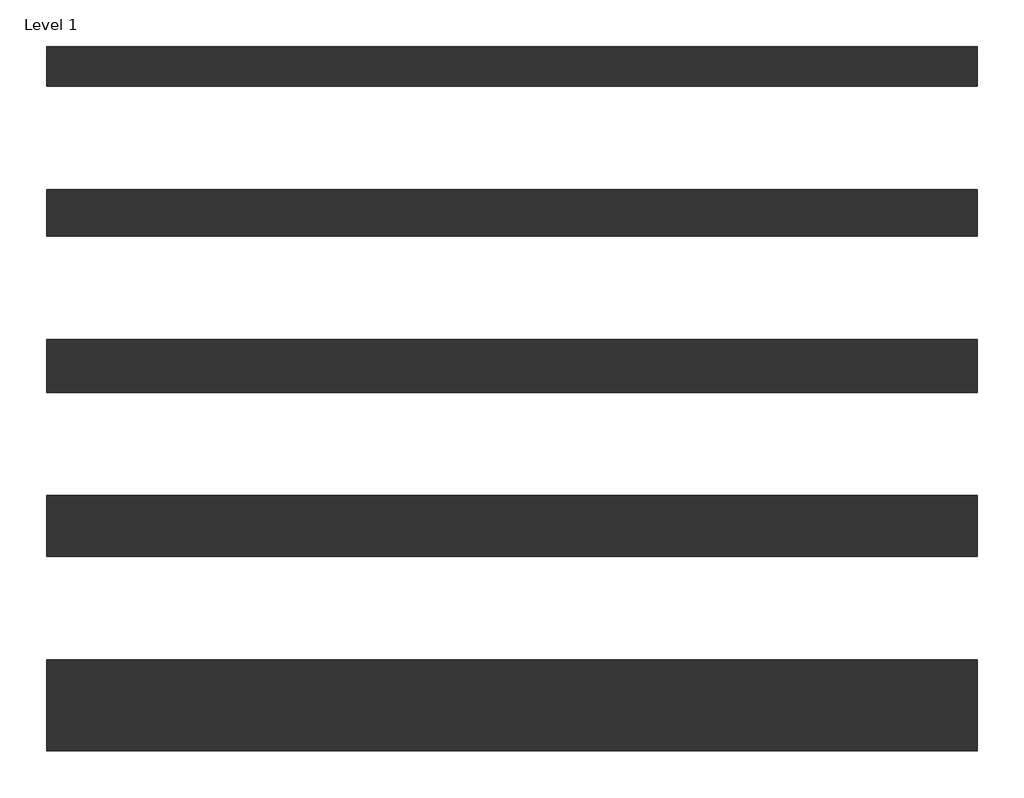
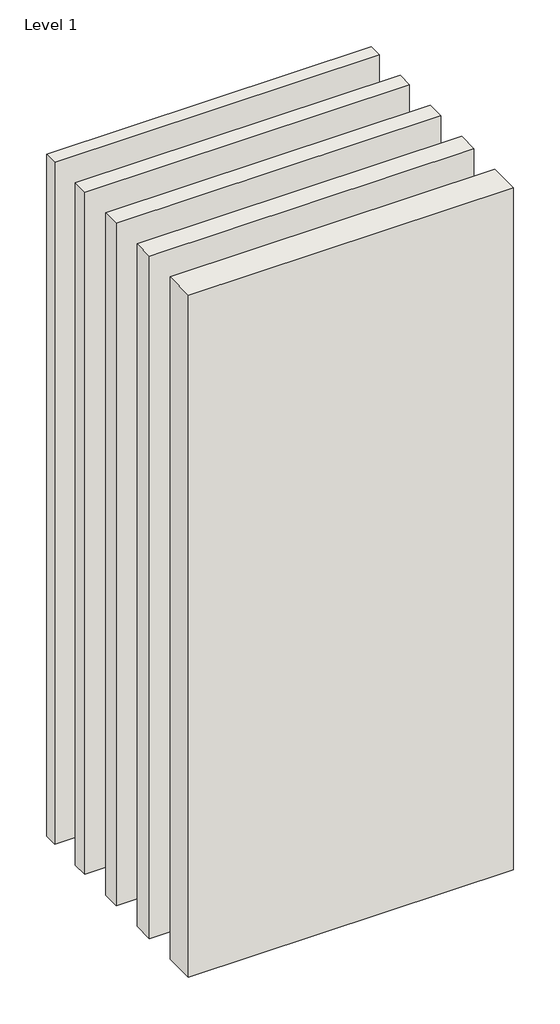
# One storey: 5 walls.
"""IFC4 building model written with IfcOpenShell, lengths in millimetres."""

from ifc_helpers import new_model, si_unit, origin, origin_with_axes, place, context, project, spatial, polyline, outline, extrude, element, save

model = new_model("IFC4")

# Units and contexts
model_context = context("Model", 3, world=origin())
ifc_project = project(units=[si_unit("LENGTHUNIT", "METRE", prefix="MILLI")], contexts=[model_context])

# Site, building, storey
site = spatial("IfcSite", under=ifc_project)
building = spatial("IfcBuilding", under=site)
storey = spatial("IfcBuildingStorey", under=building, Name="Level 1", Elevation=0.0)

# Walls
placement = place(None, origin())
element("IfcWall", 1, ObjectType="Interior-Steel Frame-Single Stud EC08-CSR 3017-102mm", at=placement, inside=storey, context=model_context, shape_type="SweptSolid", body=[
    extrude(outline(polyline([(-226.8611994, -2997.8613802), (1573.1388006, -2997.8613802), (1573.1388006, -3099.8613802), (-226.8611994, -3099.8613802), (-226.8611994, -2997.8613802)])), origin_with_axes(), (0.0, 0.0, 1.0), 4000.0),
])
element("IfcWall", 2, ObjectType="Interior-Steel Frame-Single Stud EC08-CSR3017-118mm", at=placement, inside=storey, context=model_context, shape_type="SweptSolid", body=[
    extrude(outline(polyline([(-226.8611994, -3299.8613802), (1573.1388006, -3299.8613802), (1573.1388006, -3417.8613802), (-226.8611994, -3417.8613802), (-226.8611994, -3299.8613802)])), origin_with_axes(), (0.0, 0.0, 1.0), 4000.0),
])
element("IfcWall", 3, ObjectType="Interior-Steel Frame-Single Stud EC08-CSR3017-176mm", at=placement, inside=storey, context=model_context, shape_type="SweptSolid", body=[
    extrude(outline(polyline([(-226.8611994, -3617.8613802), (1573.1388006, -3617.8613802), (1573.1388006, -3793.8613802), (-226.8611994, -3793.8613802), (-226.8611994, -3617.8613802)])), origin_with_axes(), (0.0, 0.0, 1.0), 4000.0),
])
element("IfcWall", 4, ObjectType="Interior-Steel Frame-Single Stud EC08-CSR3017-77mm", at=placement, inside=storey, context=model_context, shape_type="SweptSolid", body=[
    extrude(outline(polyline([(-226.8611994, -2430.8613802), (1573.1388006, -2430.8613802), (1573.1388006, -2507.8613802), (-226.8611994, -2507.8613802), (-226.8611994, -2430.8613802)])), origin_with_axes(), (0.0, 0.0, 1.0), 4000.0),
])
element("IfcWall", 5, ObjectType="Interior-Steel Frame-Single Stud EC08-CSR3017-90mm", at=placement, inside=storey, context=model_context, shape_type="SweptSolid", body=[
    extrude(outline(polyline([(-226.8611994, -2707.8613802), (1573.1388006, -2707.8613802), (1573.1388006, -2797.8613802), (-226.8611994, -2797.8613802), (-226.8611994, -2707.8613802)])), origin_with_axes(), (0.0, 0.0, 1.0), 4000.0),
])

save(model, "model.ifc")
